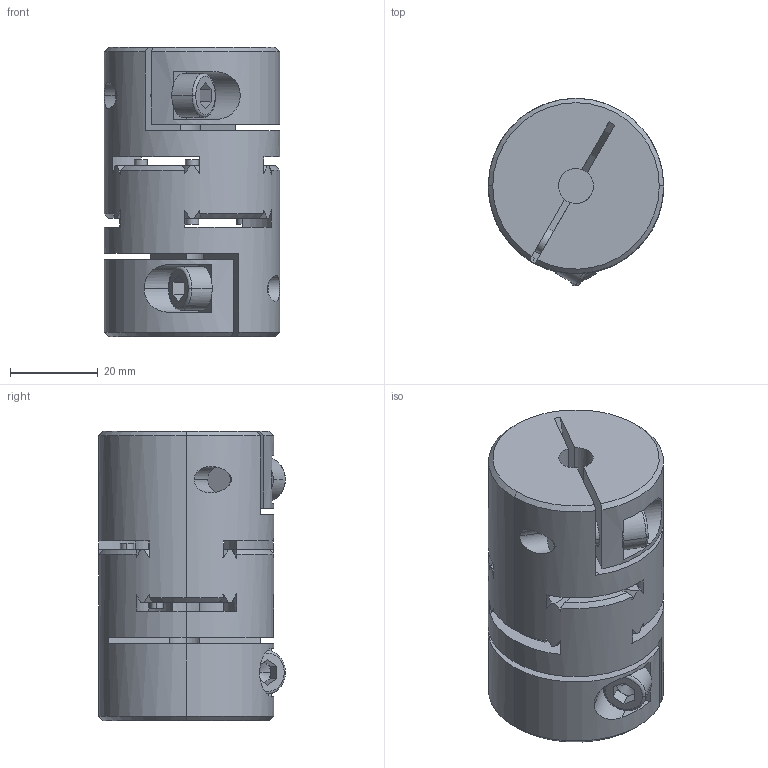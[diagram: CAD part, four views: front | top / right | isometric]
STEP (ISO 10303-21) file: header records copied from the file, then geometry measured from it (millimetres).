
FILE_DESCRIPTION((''),'2;1');
FILE_NAME('EKC-25','2026-03-30T11:03:01',('Administrator'),(''),'CREO PARAMETRIC BY PTC INC, 2020414','CREO PARAMETRIC BY PTC INC, 2020414','');
FILE_SCHEMA(('AUTOMOTIVE_DESIGN { 1 0 10303 214 1 1 1 1 }'));
Length unit declared in the file: millimetre
Products named in the file (1): EKC-25
Bounding box: 40 x 42.67 x 66 mm (x, y, z)
Volume: 69626.4 mm3; surface area: 22708.3 mm2
Topology: 1 solids, 1 shells, 227 faces, 694 edges, 463 vertices
Faces by surface type: cylinder 98, plane 73, cone 52, torus 4
Entity records: 8671 total; most frequent: CARTESIAN_POINT 2225, ORIENTED_EDGE 1376, DIRECTION 1299, EDGE_CURVE 688, AXIS2_PLACEMENT_3D 526, VERTEX_POINT 459, CIRCLE 298, EDGE_LOOP 253
